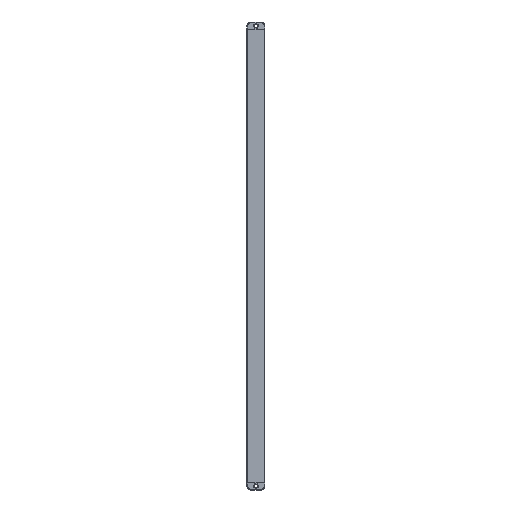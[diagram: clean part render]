
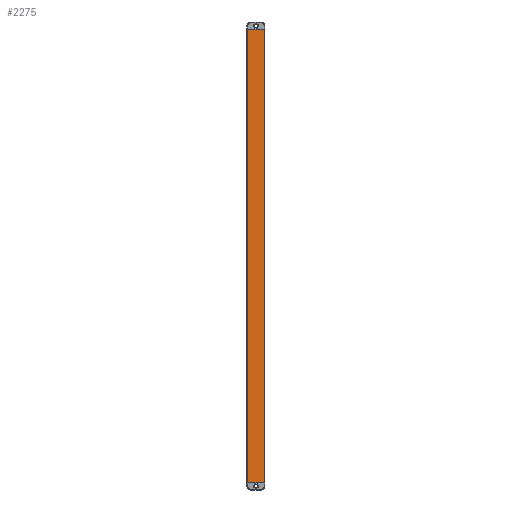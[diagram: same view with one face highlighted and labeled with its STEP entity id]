
A CAD part, front view. The second image highlights one B-rep face of the part: STEP entity #2275.
In plain terms, the highlighted planar face has unit normal (0, -1, 0).
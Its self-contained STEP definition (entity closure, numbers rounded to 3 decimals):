
#868 = CARTESIAN_POINT ( 'NONE',  ( -11.5, -6., 630. ) ) ;
#1257 = VECTOR ( 'NONE', #11168, 1000. ) ;
#1503 = CARTESIAN_POINT ( 'NONE',  ( -11.5, -6., 630. ) ) ;
#1658 = CARTESIAN_POINT ( 'NONE',  ( -11.5, -6., 0. ) ) ;
#2218 = ORIENTED_EDGE ( 'NONE', *, *, #7981, .T. ) ;
#2227 = VERTEX_POINT ( 'NONE', #868 ) ;
#2275 = ADVANCED_FACE ( 'NONE', ( #7246 ), #10777, .F. ) ;
#2835 = CARTESIAN_POINT ( 'NONE',  ( -0.005, -6., 630. ) ) ;
#3120 = DIRECTION ( 'NONE',  ( 1., 0., 0. ) ) ;
#3347 = VERTEX_POINT ( 'NONE', #1658 ) ;
#3518 = DIRECTION ( 'NONE',  ( 1., 0., 0. ) ) ;
#4099 = LINE ( 'NONE', #7634, #1257 ) ;
#5043 = DIRECTION ( 'NONE',  ( 0., 0., -1. ) ) ;
#5253 = EDGE_CURVE ( 'NONE', #2227, #3347, #9445, .T. ) ;
#5465 = EDGE_CURVE ( 'NONE', #7074, #5721, #4099, .T. ) ;
#5721 = VERTEX_POINT ( 'NONE', #9999 ) ;
#5814 = ORIENTED_EDGE ( 'NONE', *, *, #5253, .T. ) ;
#5948 = AXIS2_PLACEMENT_3D ( 'NONE', #2835, #6373, #9901 ) ;
#6373 = DIRECTION ( 'NONE',  ( 0., 1., 0. ) ) ;
#6776 = EDGE_CURVE ( 'NONE', #2227, #7074, #7933, .T. ) ;
#7074 = VERTEX_POINT ( 'NONE', #7623 ) ;
#7246 = FACE_OUTER_BOUND ( 'NONE', #10728, .T. ) ;
#7524 = LINE ( 'NONE', #11060, #8630 ) ;
#7623 = CARTESIAN_POINT ( 'NONE',  ( 11.5, -6., 630. ) ) ;
#7634 = CARTESIAN_POINT ( 'NONE',  ( 11.5, -6., 630. ) ) ;
#7933 = LINE ( 'NONE', #11467, #9184 ) ;
#7981 = EDGE_CURVE ( 'NONE', #3347, #5721, #7524, .T. ) ;
#8630 = VECTOR ( 'NONE', #3120, 1000. ) ;
#9184 = VECTOR ( 'NONE', #3518, 1000. ) ;
#9404 = VECTOR ( 'NONE', #5043, 1000. ) ;
#9445 = LINE ( 'NONE', #1503, #9404 ) ;
#9901 = DIRECTION ( 'NONE',  ( 0., 0., 1. ) ) ;
#9999 = CARTESIAN_POINT ( 'NONE',  ( 11.5, -6., 0. ) ) ;
#10229 = ORIENTED_EDGE ( 'NONE', *, *, #6776, .F. ) ;
#10728 = EDGE_LOOP ( 'NONE', ( #2218, #11095, #10229, #5814 ) ) ;
#10777 = PLANE ( 'NONE',  #5948 ) ;
#11060 = CARTESIAN_POINT ( 'NONE',  ( -0.005, -6., 0. ) ) ;
#11095 = ORIENTED_EDGE ( 'NONE', *, *, #5465, .F. ) ;
#11168 = DIRECTION ( 'NONE',  ( 0., 0., -1. ) ) ;
#11467 = CARTESIAN_POINT ( 'NONE',  ( -11.5, -6., 630. ) ) ;
